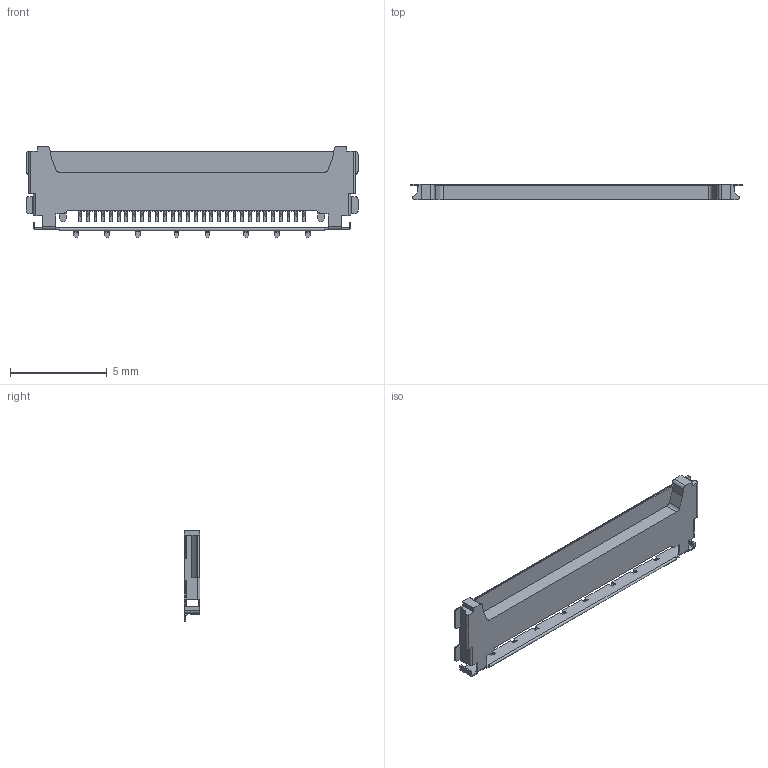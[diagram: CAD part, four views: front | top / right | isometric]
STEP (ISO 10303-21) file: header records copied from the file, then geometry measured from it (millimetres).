
FILE_DESCRIPTION (( 'STEP AP203' ), '1' );
FILE_NAME ('30P RECE 3D.STEP', '2016-10-07T09:36:14', ( '' ), ( '' ), 'SwSTEP 2.0', 'SolidWorks 2014', '' );
FILE_SCHEMA (( 'CONFIG_CONTROL_DESIGN' ));
Length unit declared in the file: millimetre
Products named in the file (1): 30P RECE 3D
Bounding box: 17.2 x 0.82 x 4.73 mm (x, y, z)
Volume: 32.9 mm3; surface area: 197 mm2
Topology: 1 solids, 1 shells, 928 faces, 2556 edges, 1694 vertices
Faces by surface type: plane 667, cylinder 261
Entity records: 29455 total; most frequent: CARTESIAN_POINT 5185, ORIENTED_EDGE 5112, DIRECTION 4944, EDGE_CURVE 2556, VECTOR 2022, LINE 2022, VERTEX_POINT 1694, AXIS2_PLACEMENT_3D 1461
